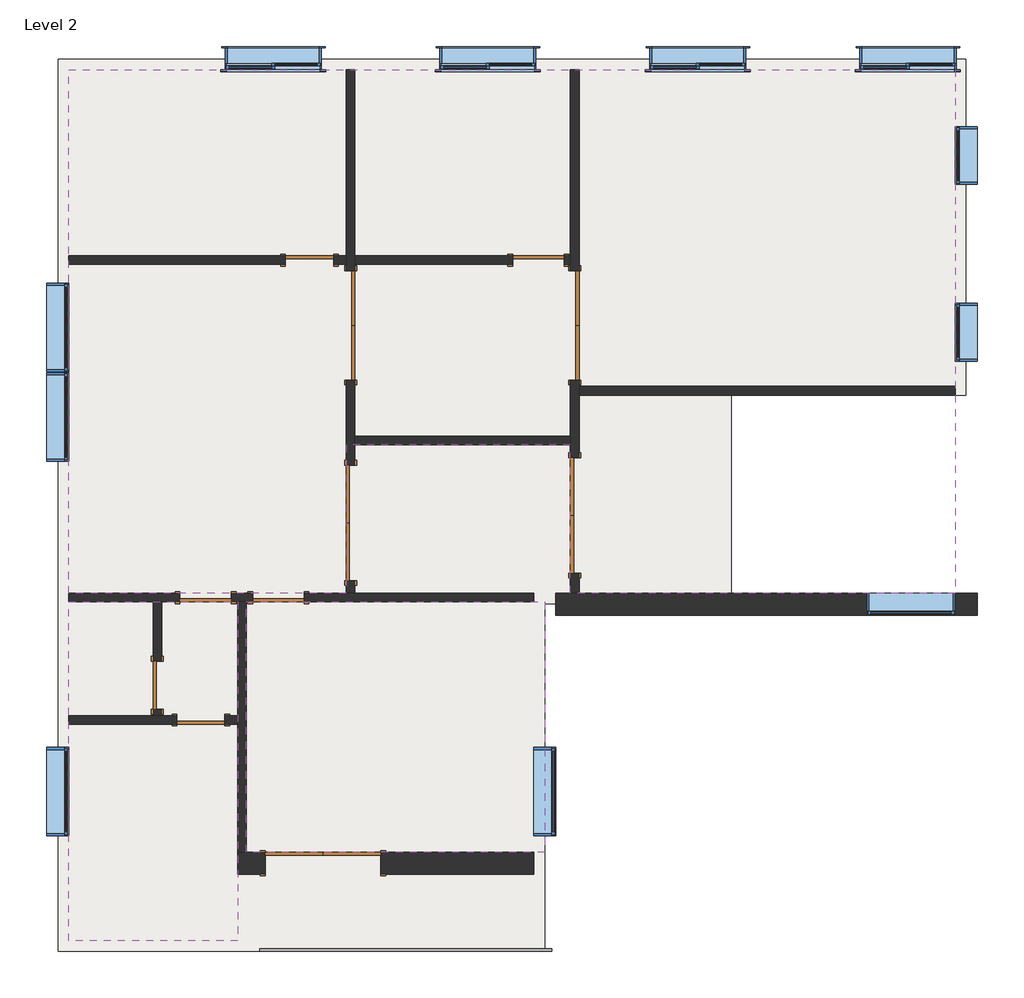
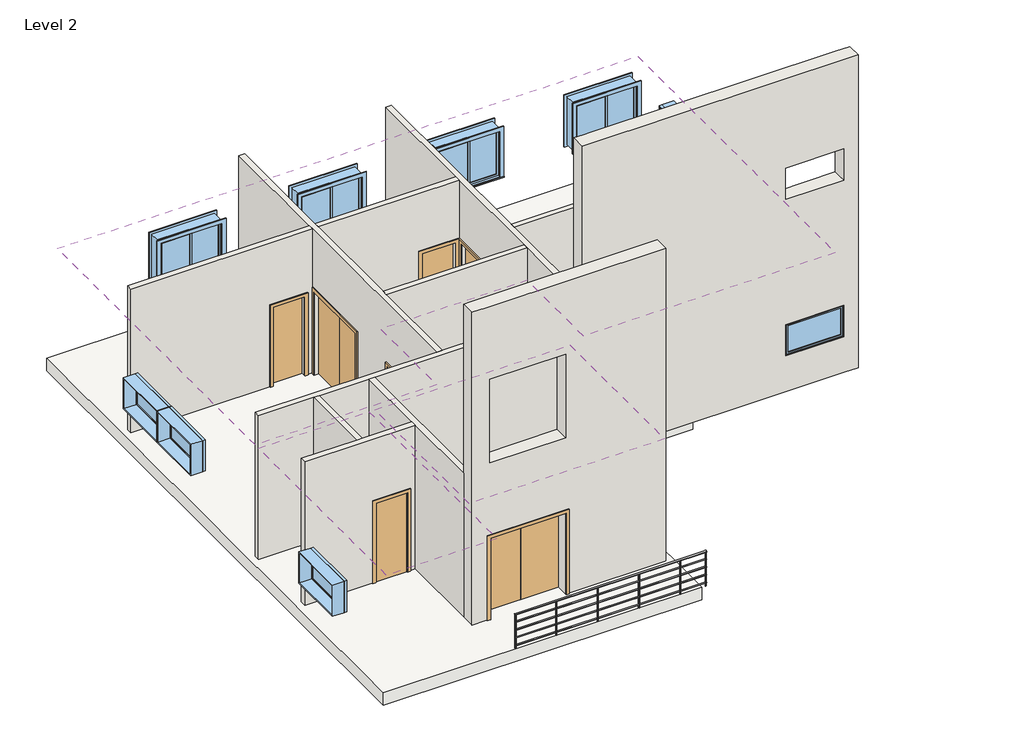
# One storey: 12 walls, 11 doors, 11 windows, 3 coverings, 2 railings, 1 slab.
"""IFC4 building model written with IfcOpenShell, lengths in millimetres."""

from ifc_helpers import new_model, si_unit, frame, origin, place, context, project, spatial, polyline, outline, extrude, faceted_brep, transform, mapped, element, save
from components import m_double_flush_1730_x_2134mm_ea805d98, m_double_flush_1830_x_2083mm_7a28c534, m_double_flush_1830_x_2083mm_6dd157be, m_single_flush_0762_x_2032mm_8f3f8d24, m_single_flush_0762_x_2032mm_93de2473, m_single_flush_0813_x_2134mm_bf4bb56d, m_single_flush_0813_x_2134mm_cfdfac75, railing_900mm_pipe_45b1395d, m_fixed_0915_x_1830mm_e21fde83, m_fixed_1400_x_0800mm_a23a53e8, m_sliding_with_trim_1830_x_1220mm_f8e2f31e

model = new_model("IFC4")

# Units and contexts
model_context = context("Model", 3, world=origin())
ifc_project = project(units=[si_unit("LENGTHUNIT", "METRE", prefix="MILLI")], contexts=[model_context])

# Site, building, storey
site = spatial("IfcSite", under=ifc_project)
building = spatial("IfcBuilding", under=site)
storey = spatial("IfcBuildingStorey", under=building, Name="Level 2", Elevation=4000.0)

# Coverings
placement = place(None, origin())
element("IfcCovering", 1, ObjectType="600 x 600mm grid", at=placement, inside=storey, context=model_context, shape_type="SweptSolid", body=[
    extrude(outline(polyline([(-4505.3077176, -4075.1973194), (-7180.3077176, -4075.1973194), (-7180.3077176, 1286.3026806), (-4505.3077176, 1286.3026806), (-4505.3077176, -4075.1973194)])), frame((0.0, 0.0, 6850.0), z_axis=(0.0, 0.0, 1.0), x_axis=(1.0, 0.0, 0.0)), (0.0, 0.0, 1.0), 52.0),
])
element("IfcCovering", 2, ObjectType="600 x 600mm grid", at=placement, inside=storey, context=model_context, shape_type="SweptSolid", body=[
    extrude(outline(polyline([(357.3775179, 1286.3026806), (357.3775179, -2675.1973194), (-4366.8077176, -2675.1973194), (-4366.8077176, 1286.3026806), (357.3775179, 1286.3026806)])), frame((0.0, 0.0, 6850.0), z_axis=(0.0, 0.0, 1.0), x_axis=(1.0, 0.0, 0.0)), (0.0, 0.0, 1.0), 52.0),
])
element("IfcCovering", 3, ObjectType="600 x 600mm grid", at=placement, inside=storey, context=model_context, shape_type="SweptSolid", body=[
    extrude(outline(polyline([(6858.993045, 9711.6003657), (6858.993045, 1424.8026806), (764.743045, 1424.8026806), (764.743045, 3773.1003657), (-2785.256955, 3773.1003657), (-2785.256955, 1424.8026806), (-7180.3077176, 1424.8026806), (-7180.3077176, 9711.6003657), (6858.993045, 9711.6003657)])), frame((0.0, 0.0, 6850.0), z_axis=(0.0, 0.0, 1.0), x_axis=(1.0, 0.0, 0.0)), (0.0, 0.0, 1.0), 52.0),
])

# Doors
m_double_flush_1730_x_2134mm_shape = m_double_flush_1730_x_2134mm_ea805d98(model_context)
element("IfcDoor", 4, ObjectType="M_Double-Flush : 1730 x 2134mm", at=placement, inside=storey, context=model_context, shape_type="MappedRepresentation", body=[
    mapped(m_double_flush_1730_x_2134mm_shape, transform((833.993045, 5665.0261065, 4000.0), x_axis=(0.0, 1.0, 0.0), y_axis=(-1.0, 0.0, 0.0), z_axis=(0.0, 0.0, 1.0))),
])
element("IfcDoor", 5, ObjectType="M_Double-Flush : 1730 x 2134mm", at=placement, inside=storey, context=model_context, shape_type="MappedRepresentation", body=[
    mapped(m_double_flush_1730_x_2134mm_shape, transform((-2716.006955, 5665.0261065, 4000.0), x_axis=(0.0, 1.0, 0.0), y_axis=(-1.0, 0.0, 0.0), z_axis=(0.0, 0.0, 1.0))),
])
m_double_flush_1830_x_2083mm_shape = m_double_flush_1830_x_2083mm_7a28c534(model_context)
element("IfcDoor", 6, ObjectType="M_Double-Flush : 1830 x 2083mm", at=placement, inside=storey, context=model_context, shape_type="MappedRepresentation", body=[
    mapped(m_double_flush_1830_x_2083mm_shape, transform((-2716.006955, 2539.8026806, 4000.0), x_axis=(0.0, 1.0, 0.0), y_axis=(-1.0, 0.0, 0.0), z_axis=(0.0, 0.0, 1.0))),
])
element("IfcDoor", 7, ObjectType="M_Double-Flush : 1830 x 2083mm", at=placement, inside=storey, context=model_context, shape_type="MappedRepresentation", body=[
    mapped(m_double_flush_1830_x_2083mm_shape, transform((833.993045, 2658.1003657, 4000.0), x_axis=(0.0, 1.0, 0.0), y_axis=(-1.0, 0.0, 0.0), z_axis=(0.0, 0.0, 1.0))),
])
m_double_flush_1830_x_2083mm_2_shape = m_double_flush_1830_x_2083mm_6dd157be(model_context)
element("IfcDoor", 8, ObjectType="M_Double-Flush : 1830 x 2083mm", at=placement, inside=storey, context=model_context, shape_type="MappedRepresentation", body=[
    mapped(m_double_flush_1830_x_2083mm_2_shape, transform((-3151.8077176, -2850.1973194, 4000.0), x_axis=(0.9999999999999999, 0.0, 0.0), y_axis=(0.0, 0.9999999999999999, 0.0), z_axis=(0.0, 0.0, 1.0))),
])
m_single_flush_0762_x_2032mm_shape = m_single_flush_0762_x_2032mm_8f3f8d24(model_context)
element("IfcDoor", 9, ObjectType="M_Single-Flush : 0762 x 2032mm", at=placement, inside=storey, context=model_context, shape_type="MappedRepresentation", body=[
    mapped(m_single_flush_0762_x_2032mm_shape, transform((-5086.3077176, -582.9473194, 4000.0), x_axis=(1.0, 0.0, 0.0), y_axis=(0.0, 1.0, 0.0), z_axis=(0.0, 0.0, 1.0))),
])
element("IfcDoor", 10, ObjectType="M_Single-Flush : 0762 x 2032mm", at=placement, inside=storey, context=model_context, shape_type="MappedRepresentation", body=[
    mapped(m_single_flush_0762_x_2032mm_shape, transform((-5774.5577176, -32.6973194, 4000.0), x_axis=(0.0, -1.0, 0.0), y_axis=(1.0, 0.0, 0.0), z_axis=(0.0, 0.0, 1.0))),
])
m_single_flush_0762_x_2032mm_2_shape = m_single_flush_0762_x_2032mm_93de2473(model_context)
element("IfcDoor", 11, ObjectType="M_Single-Flush : 0762 x 2032mm", at=placement, inside=storey, context=model_context, shape_type="MappedRepresentation", body=[
    mapped(m_single_flush_0762_x_2032mm_2_shape, transform((-3366.256955, 6699.2761065, 4000.0), x_axis=(1.0, 0.0, 0.0), y_axis=(0.0, 1.0, 0.0), z_axis=(0.0, 0.0, 1.0))),
])
m_single_flush_0813_x_2134mm_shape = m_single_flush_0813_x_2134mm_bf4bb56d(model_context)
element("IfcDoor", 12, ObjectType="M_Single-Flush : 0813 x 2134mm", at=placement, inside=storey, context=model_context, shape_type="MappedRepresentation", body=[
    mapped(m_single_flush_0813_x_2134mm_shape, transform((-5011.8077176, 1355.5526806, 4000.0), x_axis=(1.0, 0.0, 0.0), y_axis=(0.0, 1.0, 0.0), z_axis=(0.0, 0.0, 1.0))),
])
m_single_flush_0813_x_2134mm_2_shape = m_single_flush_0813_x_2134mm_cfdfac75(model_context)
element("IfcDoor", 13, ObjectType="M_Single-Flush : 0813 x 2134mm", at=placement, inside=storey, context=model_context, shape_type="MappedRepresentation", body=[
    mapped(m_single_flush_0813_x_2134mm_2_shape, transform((-3860.3077176, 1355.5526806, 4000.0), x_axis=(-1.0, 0.0, 0.0), y_axis=(0.0, -1.0, 0.0), z_axis=(0.0, 0.0, 1.0))),
])
element("IfcDoor", 14, ObjectType="M_Single-Flush : 0813 x 2134mm", at=placement, inside=storey, context=model_context, shape_type="MappedRepresentation", body=[
    mapped(m_single_flush_0813_x_2134mm_2_shape, transform((258.243045, 6699.2761065, 4000.0), x_axis=(1.0, 0.0, 0.0), y_axis=(0.0, 1.0, 0.0), z_axis=(0.0, 0.0, 1.0))),
])

# Railings
railing_900mm_pipe_shape = railing_900mm_pipe_45b1395d(model_context)
element("IfcRailing", 15, ObjectType="900mm Pipe", at=placement, inside=storey, context=model_context, shape_type="MappedRepresentation", body=[
    mapped(railing_900mm_pipe_shape, transform((0.0, 0.0, 0.0), x_axis=(1.0, 0.0, 0.0), y_axis=(0.0, 1.0, 0.0), z_axis=(0.0, 0.0, 1.0))),
])
element("IfcRailing", 16, ObjectType="900mm Pipe", at=placement, inside=storey, context=model_context, shape_type="MappedRepresentation", body=[
    mapped(railing_900mm_pipe_shape, transform((0.0, 0.0, 0.0), x_axis=(1.0, 0.0, 0.0), y_axis=(0.0, 1.0, 0.0), z_axis=(0.0, 0.0, 1.0))),
])

# Slab
element("IfcSlab", 17, ObjectType="Residential 320mm", at=placement, inside=storey, context=model_context, shape_type="SweptSolid", body=[
    extrude(outline(polyline([(-7345.3077176, -4240.1973194), (-7345.3077176, 9876.6003657), (7023.993045, 9876.6003657), (7023.993045, 4561.5261065), (3308.993045, 4561.5261065), (3308.993045, 1259.8026806), (357.3775179, 1259.8026806), (357.3775179, -4240.1973194), (-7345.3077176, -4240.1973194)])), frame((0.0, 0.0, 3680.0), z_axis=(0.0, 0.0, 1.0), x_axis=(1.0, 0.0, 0.0)), (0.0, 0.0, 1.0), 320.0),
])

# Walls
element("IfcWall", 18, ObjectType="Exterior - Brick on Mtl. Stud", at=placement, inside=storey, context=model_context, shape_type="Brep", body=[
    faceted_brep([(-2236.8077176, -3025.1973194, 6083.0), (-2236.8077176, -3025.1973194, 4000.0), (182.3775179, -3025.1973194, 4000.0), (182.3775179, -3025.1973194, 12000.0), (-4155.3077176, -3025.1973194, 12000.0), (-4505.3077176, -3025.1973194, 12000.0), (-4505.3077176, -3025.1973194, 4000.0), (-4155.3077176, -3025.1973194, 4000.0), (-4066.8077176, -3025.1973194, 4000.0), (-4066.8077176, -3025.1973194, 6083.0), (-2236.8077176, -3025.1973194, 8000.0), (-4066.8077176, -3025.1973194, 8000.0), (-4066.8077176, -3025.1973194, 10134.0), (-2236.8077176, -3025.1973194, 10134.0), (182.3775179, -2675.1973194, 4000.0), (-2236.8077176, -2675.1973194, 4000.0), (-2236.8077176, -2675.1973194, 6083.0), (-4066.8077176, -2675.1973194, 6083.0), (-4066.8077176, -2675.1973194, 4000.0), (-4155.3077176, -2675.1973194, 4000.0), (-4505.3077176, -2675.1973194, 4000.0), (-4505.3077176, -2675.1973194, 7680.0), (-4505.3077176, -2675.1973194, 8000.0), (-4505.3077176, -2675.1973194, 12000.0), (-4366.8077176, -2675.1973194, 12000.0), (182.3775179, -2675.1973194, 12000.0), (-2236.8077176, -2675.1973194, 8000.0), (-2236.8077176, -2675.1973194, 10134.0), (-4066.8077176, -2675.1973194, 10134.0), (-4066.8077176, -2675.1973194, 8000.0)], [[[0, 1, 2, 3, 4, 5, 6, 7, 8, 9], [10, 11, 12, 13]], [[14, 15, 16, 17, 18, 19, 20, 21, 22, 23, 24, 25], [26, 27, 28, 29]], [[2, 1, 15, 14]], [[8, 7, 6, 20, 19, 18]], [[5, 4, 3, 25, 24, 23]], [[5, 23, 22, 21, 20, 6]], [[3, 2, 14, 25]], [[16, 15, 1, 0]], [[17, 16, 0, 9]], [[18, 17, 9, 8]], [[27, 26, 10, 13]], [[28, 27, 13, 12]], [[29, 28, 12, 11]], [[26, 29, 11, 10]]]),
])
element("IfcWall", 19, ObjectType="Exterior - Brick on Mtl. Stud", at=placement, inside=storey, context=model_context, shape_type="Brep", body=[
    faceted_brep([(532.3775179, 1074.8026806, 4000.0), (6858.993045, 1074.8026806, 4000.0), (7208.993045, 1074.8026806, 4000.0), (7208.993045, 1074.8026806, 12000.0), (532.3775179, 1074.8026806, 12000.0), (6858.993045, 1074.8026806, 5715.0), (6858.993045, 1074.8026806, 4915.0), (5458.993045, 1074.8026806, 4915.0), (5458.993045, 1074.8026806, 5715.0), (6858.993045, 1074.8026806, 9715.0), (6858.993045, 1074.8026806, 8915.0), (5458.993045, 1074.8026806, 8915.0), (5458.993045, 1074.8026806, 9715.0), (7208.993045, 1424.8026806, 4000.0), (6858.993045, 1424.8026806, 4000.0), (903.243045, 1424.8026806, 4000.0), (764.743045, 1424.8026806, 4000.0), (532.3775179, 1424.8026806, 4000.0), (532.3775179, 1424.8026806, 7680.0), (764.743045, 1424.8026806, 7680.0), (903.243045, 1424.8026806, 7680.0), (3308.993045, 1424.8026806, 7680.0), (3308.993045, 1424.8026806, 8000.0), (903.243045, 1424.8026806, 8000.0), (764.743045, 1424.8026806, 8000.0), (532.3775179, 1424.8026806, 8000.0), (532.3775179, 1424.8026806, 12000.0), (764.743045, 1424.8026806, 12000.0), (903.243045, 1424.8026806, 12000.0), (6858.993045, 1424.8026806, 12000.0), (7208.993045, 1424.8026806, 12000.0), (6858.993045, 1424.8026806, 4915.0), (6858.993045, 1424.8026806, 5715.0), (5458.993045, 1424.8026806, 5715.0), (5458.993045, 1424.8026806, 4915.0), (6858.993045, 1424.8026806, 8915.0), (6858.993045, 1424.8026806, 9715.0), (5458.993045, 1424.8026806, 9715.0), (5458.993045, 1424.8026806, 8915.0), (532.3775179, 1259.8026806, 8000.0), (532.3775179, 1259.8026806, 7680.0), (3308.993045, 1259.8026806, 7680.0), (3308.993045, 1259.8026806, 8000.0)], [[[0, 1, 2, 3, 4], [5, 6, 7, 8], [9, 10, 11, 12]], [[13, 14, 15, 16, 17, 18, 19, 20, 21, 22, 23, 24, 25, 26, 27, 28, 29, 30], [31, 32, 33, 34], [35, 36, 37, 38]], [[2, 1, 0, 17, 16, 15, 14, 13]], [[4, 3, 30, 29, 28, 27, 26]], [[3, 2, 13, 30]], [[17, 0, 4, 26, 25, 39, 40, 18]], [[32, 31, 6, 5]], [[33, 32, 5, 8]], [[34, 33, 8, 7]], [[31, 34, 7, 6]], [[36, 35, 10, 9]], [[37, 36, 9, 12]], [[38, 37, 12, 11]], [[35, 38, 11, 10]], [[40, 41, 21, 20, 19, 18]], [[22, 42, 39, 25, 24, 23]], [[41, 42, 22, 21]], [[42, 41, 40, 39]]]),
])
element("IfcWall", 20, ObjectType="Interior - 138mm Partition (1-hr)", at=placement, inside=storey, context=model_context, shape_type="Brep", body=[
    faceted_brep([(-4266.8077176, 1424.8026806, 6134.0), (-4266.8077176, 1424.8026806, 4000.0), (-4605.3077176, 1424.8026806, 4000.0), (-4605.3077176, 1424.8026806, 6134.0), (-5418.3077176, 1424.8026806, 6134.0), (-5418.3077176, 1424.8026806, 4000.0), (-7180.3077176, 1424.8026806, 4000.0), (-7180.3077176, 1424.8026806, 7680.0), (-2785.256955, 1424.8026806, 7680.0), (-2646.756955, 1424.8026806, 7680.0), (182.3775179, 1424.8026806, 7680.0), (182.3775179, 1424.8026806, 4000.0), (-2646.756955, 1424.8026806, 4000.0), (-2785.256955, 1424.8026806, 4000.0), (-3453.8077176, 1424.8026806, 4000.0), (-3453.8077176, 1424.8026806, 6134.0), (-4605.3077176, 1286.3026806, 4000.0), (-4505.3077176, 1286.3026806, 4000.0), (-4366.8077176, 1286.3026806, 4000.0), (-4266.8077176, 1286.3026806, 4000.0), (-4266.8077176, 1286.3026806, 6134.0), (-3453.8077176, 1286.3026806, 6134.0), (-3453.8077176, 1286.3026806, 4000.0), (182.3775179, 1286.3026806, 4000.0), (182.3775179, 1286.3026806, 7680.0), (-4366.8077176, 1286.3026806, 7680.0), (-4505.3077176, 1286.3026806, 7680.0), (-5705.3077176, 1286.3026806, 7680.0), (-5843.8077176, 1286.3026806, 7680.0), (-7180.3077176, 1286.3026806, 7680.0), (-7180.3077176, 1286.3026806, 4000.0), (-5843.8077176, 1286.3026806, 4000.0), (-5705.3077176, 1286.3026806, 4000.0), (-5418.3077176, 1286.3026806, 4000.0), (-5418.3077176, 1286.3026806, 6134.0), (-4605.3077176, 1286.3026806, 6134.0)], [[[0, 1, 2, 3, 4, 5, 6, 7, 8, 9, 10, 11, 12, 13, 14, 15]], [[16, 17, 18, 19, 20, 21, 22, 23, 24, 25, 26, 27, 28, 29, 30, 31, 32, 33, 34, 35]], [[2, 1, 19, 18, 17, 16]], [[33, 32, 31, 30, 6, 5]], [[14, 13, 12, 11, 23, 22]], [[7, 6, 30, 29]], [[11, 10, 24, 23]], [[10, 9, 8, 7, 29, 28, 27, 26, 25, 24]], [[3, 2, 16, 35]], [[4, 3, 35, 34]], [[5, 4, 34, 33]], [[20, 19, 1, 0]], [[21, 20, 0, 15]], [[22, 21, 15, 14]]]),
])
element("IfcWall", 21, ObjectType="Interior - 138mm Partition (1-hr)", at=placement, inside=storey, context=model_context, shape_type="Brep", body=[
    faceted_brep([(-4505.3077176, 1286.3026806, 4000.0), (-4505.3077176, -513.6973194, 4000.0), (-4505.3077176, -652.1973194, 4000.0), (-4505.3077176, -2675.1973194, 4000.0), (-4505.3077176, -2675.1973194, 7680.0), (-4505.3077176, -652.1973194, 7680.0), (-4505.3077176, -513.6973194, 7680.0), (-4505.3077176, 1286.3026806, 7680.0), (-4366.8077176, 1286.3026806, 4000.0), (-4366.8077176, 1286.3026806, 7680.0), (-4366.8077176, -2675.1973194, 7680.0), (-4366.8077176, -2675.1973194, 4000.0)], [[[0, 1, 2, 3, 4, 5, 6, 7]], [[8, 9, 10, 11]], [[3, 2, 1, 0, 8, 11]], [[0, 7, 9, 8]], [[4, 3, 11, 10]], [[7, 6, 5, 4, 10, 9]]]),
])
element("IfcWall", 22, ObjectType="Interior - 138mm Partition (1-hr)", at=placement, inside=storey, context=model_context, shape_type="Brep", body=[
    faceted_brep([(-4705.3077176, -652.1973194, 6032.0), (-4705.3077176, -652.1973194, 4000.0), (-4505.3077176, -652.1973194, 4000.0), (-4505.3077176, -652.1973194, 7680.0), (-7180.3077176, -652.1973194, 7680.0), (-7180.3077176, -652.1973194, 4000.0), (-5467.3077176, -652.1973194, 4000.0), (-5467.3077176, -652.1973194, 6032.0), (-4505.3077176, -513.6973194, 4000.0), (-4705.3077176, -513.6973194, 4000.0), (-4705.3077176, -513.6973194, 6032.0), (-5467.3077176, -513.6973194, 6032.0), (-5467.3077176, -513.6973194, 4000.0), (-5705.3077176, -513.6973194, 4000.0), (-5843.8077176, -513.6973194, 4000.0), (-7180.3077176, -513.6973194, 4000.0), (-7180.3077176, -513.6973194, 7680.0), (-5843.8077176, -513.6973194, 7680.0), (-5705.3077176, -513.6973194, 7680.0), (-4505.3077176, -513.6973194, 7680.0)], [[[0, 1, 2, 3, 4, 5, 6, 7]], [[8, 9, 10, 11, 12, 13, 14, 15, 16, 17, 18, 19]], [[2, 1, 9, 8]], [[6, 5, 15, 14, 13, 12]], [[5, 4, 16, 15]], [[3, 2, 8, 19]], [[4, 3, 19, 18, 17, 16]], [[10, 9, 1, 0]], [[11, 10, 0, 7]], [[12, 11, 7, 6]]]),
])
element("IfcWall", 23, ObjectType="Interior - 138mm Partition (1-hr)", at=placement, inside=storey, context=model_context, shape_type="SweptSolid", body=[
    extrude(outline(polyline([(-413.6973194, 6032.0), (-413.6973194, 4000.0), (-513.6973194, 4000.0), (-513.6973194, 7680.0), (1286.3026806, 7680.0), (1286.3026806, 4000.0), (348.3026806, 4000.0), (348.3026806, 6032.0), (-413.6973194, 6032.0)])), frame((-5843.8077176, 0.0, 0.0), z_axis=(1.0, 0.0, 0.0), x_axis=(0.0, 1.0, 0.0)), (0.0, 0.0, 1.0), 138.5),
])
element("IfcWall", 24, ObjectType="Interior - 138mm Partition (1-hr)", at=placement, inside=storey, context=model_context, shape_type="Brep", body=[
    faceted_brep([(903.243045, 3573.1003657, 6083.0), (903.243045, 3573.1003657, 4000.0), (903.243045, 4561.5261065, 4000.0), (903.243045, 4700.0261065, 4000.0), (903.243045, 4800.0261065, 4000.0), (903.243045, 4800.0261065, 6134.0), (903.243045, 6530.0261065, 6134.0), (903.243045, 6530.0261065, 4000.0), (903.243045, 9711.6003657, 4000.0), (903.243045, 9711.6003657, 7680.0), (903.243045, 4700.0261065, 7680.0), (903.243045, 4561.5261065, 7680.0), (903.243045, 1424.8026806, 7680.0), (903.243045, 1424.8026806, 4000.0), (903.243045, 1743.1003657, 4000.0), (903.243045, 1743.1003657, 6083.0), (764.743045, 4800.0261065, 4000.0), (764.743045, 3911.6003657, 4000.0), (764.743045, 3773.1003657, 4000.0), (764.743045, 3573.1003657, 4000.0), (764.743045, 3573.1003657, 6083.0), (764.743045, 1743.1003657, 6083.0), (764.743045, 1743.1003657, 4000.0), (764.743045, 1424.8026806, 4000.0), (764.743045, 1424.8026806, 7680.0), (764.743045, 3773.1003657, 7680.0), (764.743045, 3911.6003657, 7680.0), (764.743045, 6630.0261065, 7680.0), (764.743045, 6768.5261065, 7680.0), (764.743045, 9711.6003657, 7680.0), (764.743045, 9711.6003657, 4000.0), (764.743045, 6768.5261065, 4000.0), (764.743045, 6630.0261065, 4000.0), (764.743045, 6530.0261065, 4000.0), (764.743045, 6530.0261065, 6134.0), (764.743045, 4800.0261065, 6134.0), (833.993045, 9711.6003657, 4000.0), (833.993045, 9711.6003657, 7680.0)], [[[0, 1, 2, 3, 4, 5, 6, 7, 8, 9, 10, 11, 12, 13, 14, 15]], [[16, 17, 18, 19, 20, 21, 22, 23, 24, 25, 26, 27, 28, 29, 30, 31, 32, 33, 34, 35]], [[8, 7, 33, 32, 31, 30, 36]], [[4, 3, 2, 1, 19, 18, 17, 16]], [[14, 13, 23, 22]], [[9, 8, 36, 30, 29, 37]], [[13, 12, 24, 23]], [[12, 11, 10, 9, 37, 29, 28, 27, 26, 25, 24]], [[34, 33, 7, 6]], [[35, 34, 6, 5]], [[16, 35, 5, 4]], [[20, 19, 1, 0]], [[21, 20, 0, 15]], [[22, 21, 15, 14]]]),
])
element("IfcWall", 25, ObjectType="Interior - 138mm Partition (1-hr)", at=placement, inside=storey, context=model_context, shape_type="SweptSolid", body=[
    extrude(outline(polyline([(-2646.756955, 3911.6003657), (764.743045, 3911.6003657), (764.743045, 3773.1003657), (-2646.756955, 3773.1003657), (-2646.756955, 3911.6003657)])), frame((0.0, 0.0, 4000.0), z_axis=(0.0, 0.0, 1.0), x_axis=(1.0, 0.0, 0.0)), (0.0, 0.0, 1.0), 3680.0),
])
element("IfcWall", 26, ObjectType="Interior - 138mm Partition (1-hr)", at=placement, inside=storey, context=model_context, shape_type="Brep", body=[
    faceted_brep([(-2646.756955, 3454.8026806, 6083.0), (-2646.756955, 3454.8026806, 4000.0), (-2646.756955, 3773.1003657, 4000.0), (-2646.756955, 3911.6003657, 4000.0), (-2646.756955, 4800.0261065, 4000.0), (-2646.756955, 4800.0261065, 6134.0), (-2646.756955, 6530.0261065, 6134.0), (-2646.756955, 6530.0261065, 4000.0), (-2646.756955, 6630.0261065, 4000.0), (-2646.756955, 6768.5261065, 4000.0), (-2646.756955, 9711.6003657, 4000.0), (-2646.756955, 9711.6003657, 7680.0), (-2646.756955, 6768.5261065, 7680.0), (-2646.756955, 6630.0261065, 7680.0), (-2646.756955, 3911.6003657, 7680.0), (-2646.756955, 3773.1003657, 7680.0), (-2646.756955, 1424.8026806, 7680.0), (-2646.756955, 1424.8026806, 4000.0), (-2646.756955, 1624.8026806, 4000.0), (-2646.756955, 1624.8026806, 6083.0), (-2785.256955, 4800.0261065, 4000.0), (-2785.256955, 3454.8026806, 4000.0), (-2785.256955, 3454.8026806, 6083.0), (-2785.256955, 1624.8026806, 6083.0), (-2785.256955, 1624.8026806, 4000.0), (-2785.256955, 1424.8026806, 4000.0), (-2785.256955, 1424.8026806, 7680.0), (-2785.256955, 6630.0261065, 7680.0), (-2785.256955, 6768.5261065, 7680.0), (-2785.256955, 9711.6003657, 7680.0), (-2785.256955, 9711.6003657, 4000.0), (-2785.256955, 6768.5261065, 4000.0), (-2785.256955, 6630.0261065, 4000.0), (-2785.256955, 6530.0261065, 4000.0), (-2785.256955, 6530.0261065, 6134.0), (-2785.256955, 4800.0261065, 6134.0)], [[[0, 1, 2, 3, 4, 5, 6, 7, 8, 9, 10, 11, 12, 13, 14, 15, 16, 17, 18, 19]], [[20, 21, 22, 23, 24, 25, 26, 27, 28, 29, 30, 31, 32, 33, 34, 35]], [[10, 9, 8, 7, 33, 32, 31, 30]], [[4, 3, 2, 1, 21, 20]], [[18, 17, 25, 24]], [[17, 16, 26, 25]], [[11, 10, 30, 29]], [[16, 15, 14, 13, 12, 11, 29, 28, 27, 26]], [[34, 33, 7, 6]], [[35, 34, 6, 5]], [[20, 35, 5, 4]], [[22, 21, 1, 0]], [[23, 22, 0, 19]], [[24, 23, 19, 18]]]),
])
element("IfcWall", 27, ObjectType="Interior - 138mm Partition (1-hr)", at=placement, inside=storey, context=model_context, shape_type="SweptSolid", body=[
    extrude(outline(polyline([(6134.0, 664.743045), (4000.0, 664.743045), (4000.0, 764.743045), (7680.0, 764.743045), (7680.0, -2646.756955), (4000.0, -2646.756955), (4000.0, -148.256955), (6134.0, -148.256955), (6134.0, 664.743045)])), frame((0.0, 6630.0261065, 0.0), z_axis=(0.0, 1.0, 0.0), x_axis=(0.0, 0.0, 1.0)), (0.0, 0.0, 1.0), 138.5),
])
element("IfcWall", 28, ObjectType="Interior - 138mm Partition (1-hr)", at=placement, inside=storey, context=model_context, shape_type="SweptSolid", body=[
    extrude(outline(polyline([(6032.0, -2985.256955), (4000.0, -2985.256955), (4000.0, -2785.256955), (7680.0, -2785.256955), (7680.0, -7180.3077176), (4000.0, -7180.3077176), (4000.0, -3747.256955), (6032.0, -3747.256955), (6032.0, -2985.256955)])), frame((0.0, 6630.0261065, 0.0), z_axis=(0.0, 1.0, 0.0), x_axis=(0.0, 0.0, 1.0)), (0.0, 0.0, 1.0), 138.5),
])
element("IfcWall", 29, ObjectType="Interior - 138mm Partition (1-hr)", at=placement, inside=storey, context=model_context, shape_type="Brep", body=[
    faceted_brep([(903.243045, 4561.5261065, 4000.0), (6858.993045, 4561.5261065, 4000.0), (6858.993045, 4561.5261065, 7680.0), (3308.993045, 4561.5261065, 7680.0), (903.243045, 4561.5261065, 7680.0), (903.243045, 4700.0261065, 4000.0), (903.243045, 4700.0261065, 7680.0), (6858.993045, 4700.0261065, 7680.0), (6858.993045, 4700.0261065, 4000.0)], [[[0, 1, 2, 3, 4]], [[5, 6, 7, 8]], [[1, 0, 5, 8]], [[0, 4, 6, 5]], [[2, 1, 8, 7]], [[4, 3, 2, 7, 6]]]),
])

# Windows
m_fixed_0915_x_1830mm_shape = m_fixed_0915_x_1830mm_e21fde83(model_context)
element("IfcWindow", 30, ObjectType="M_Fixed : 0915 x 1830mm", at=placement, inside=storey, context=model_context, shape_type="MappedRepresentation", body=[
    mapped(m_fixed_0915_x_1830mm_shape, transform((7046.993045, 5557.5261065, 4000.0), x_axis=(0.0, 1.0, 0.0), y_axis=(-1.0, 0.0, 0.0), z_axis=(0.0, 0.0, 1.0))),
])
element("IfcWindow", 31, ObjectType="M_Fixed : 0915 x 1830mm", at=placement, inside=storey, context=model_context, shape_type="MappedRepresentation", body=[
    mapped(m_fixed_0915_x_1830mm_shape, transform((7046.993045, 8354.1003657, 4000.0), x_axis=(0.0, 1.0, 0.0), y_axis=(-1.0, 0.0, 0.0), z_axis=(0.0, 0.0, 1.0))),
])
m_fixed_1400_x_0800mm_shape = m_fixed_1400_x_0800mm_a23a53e8(model_context)
element("IfcWindow", 32, ObjectType="M_Fixed : 1400 x 0800mm", at=placement, inside=storey, context=model_context, shape_type="MappedRepresentation", body=[
    mapped(m_fixed_1400_x_0800mm_shape, transform((-7368.3077176, -1717.6973194, 4000.0), x_axis=(0.0, -1.0, 0.0), y_axis=(1.0, 0.0, 0.0), z_axis=(0.0, 0.0, 1.0))),
])
element("IfcWindow", 33, ObjectType="M_Fixed : 1400 x 0800mm", at=placement, inside=storey, context=model_context, shape_type="MappedRepresentation", body=[
    mapped(m_fixed_1400_x_0800mm_shape, transform((-7368.3077176, 4217.3026806, 4000.0), x_axis=(0.0, -1.0, 0.0), y_axis=(1.0, 0.0, 0.0), z_axis=(0.0, 0.0, 1.0))),
])
element("IfcWindow", 34, ObjectType="M_Fixed : 1400 x 0800mm", at=placement, inside=storey, context=model_context, shape_type="MappedRepresentation", body=[
    mapped(m_fixed_1400_x_0800mm_shape, transform((-7368.3077176, 5632.3026806, 4000.0), x_axis=(0.0, -1.0, 0.0), y_axis=(1.0, 0.0, 0.0), z_axis=(0.0, 0.0, 1.0))),
])
element("IfcWindow", 35, ObjectType="M_Fixed : 1400 x 0800mm", at=placement, inside=storey, context=model_context, shape_type="MappedRepresentation", body=[
    mapped(m_fixed_1400_x_0800mm_shape, transform((344.3775179, -1717.6973194, 4000.0), x_axis=(0.0, -1.0, 0.0), y_axis=(1.0, 0.0, 0.0), z_axis=(0.0, 0.0, 1.0))),
])
element("IfcWindow", 36, ObjectType="M_Fixed : 1400 x 0800mm", at=placement, inside=storey, context=model_context, shape_type="MappedRepresentation", body=[
    mapped(m_fixed_1400_x_0800mm_shape, transform((6158.993045, 1262.8026806, 4000.0), x_axis=(-1.0, 0.0, 0.0), y_axis=(0.0, -1.0, 0.0), z_axis=(0.0, 0.0, 1.0))),
])
m_sliding_with_trim_1830_x_1220mm_shape = m_sliding_with_trim_1830_x_1220mm_f8e2f31e(model_context)
element("IfcWindow", 37, ObjectType="M_Sliding with Trim : 1830 x 1220mm", at=placement, inside=storey, context=model_context, shape_type="MappedRepresentation", body=[
    mapped(m_sliding_with_trim_1830_x_1220mm_shape, transform((6107.6922824, 9886.6003657, 4000.0), x_axis=(-1.0, 0.0, 0.0), y_axis=(0.0, -1.0, 0.0), z_axis=(0.0, 0.0, 1.0))),
])
element("IfcWindow", 38, ObjectType="M_Sliding with Trim : 1830 x 1220mm", at=placement, inside=storey, context=model_context, shape_type="MappedRepresentation", body=[
    mapped(m_sliding_with_trim_1830_x_1220mm_shape, transform((2781.6922824, 9886.6003657, 4000.0), x_axis=(-1.0, 0.0, 0.0), y_axis=(0.0, -1.0, 0.0), z_axis=(0.0, 0.0, 1.0))),
])
element("IfcWindow", 39, ObjectType="M_Sliding with Trim : 1830 x 1220mm", at=placement, inside=storey, context=model_context, shape_type="MappedRepresentation", body=[
    mapped(m_sliding_with_trim_1830_x_1220mm_shape, transform((-544.3077176, 9886.6003657, 4000.0), x_axis=(-1.0, 0.0, 0.0), y_axis=(0.0, -1.0, 0.0), z_axis=(0.0, 0.0, 1.0))),
])
element("IfcWindow", 40, ObjectType="M_Sliding with Trim : 1830 x 1220mm", at=placement, inside=storey, context=model_context, shape_type="MappedRepresentation", body=[
    mapped(m_sliding_with_trim_1830_x_1220mm_shape, transform((-3940.1577176, 9886.6003657, 4000.0), x_axis=(-1.0, 0.0, 0.0), y_axis=(0.0, -1.0, 0.0), z_axis=(0.0, 0.0, 1.0))),
])

save(model, "model.ifc")
